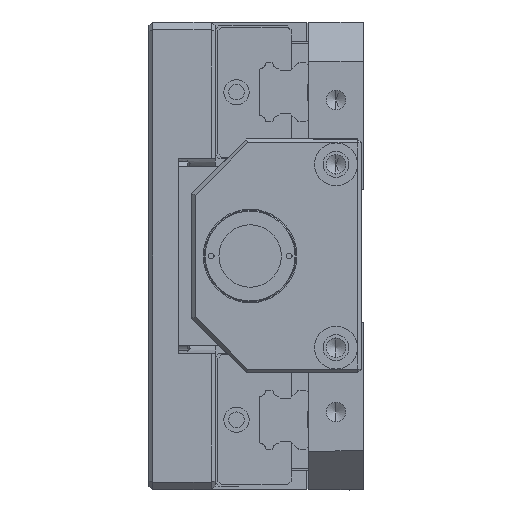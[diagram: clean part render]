
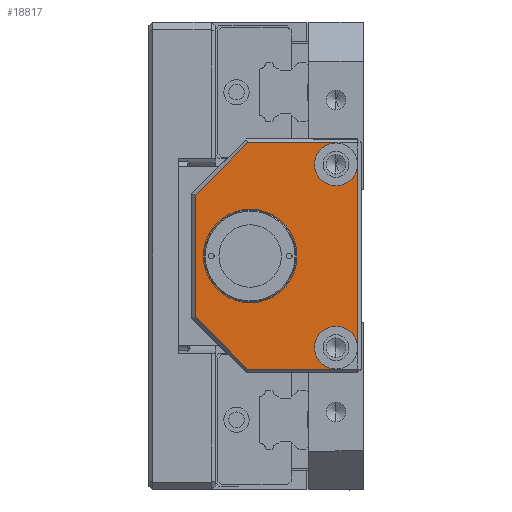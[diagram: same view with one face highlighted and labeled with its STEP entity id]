
A CAD part, left-side view. The second image highlights one B-rep face of the part: STEP entity #18817.
In plain terms, the highlighted planar face has unit normal (-1, 0, 0).
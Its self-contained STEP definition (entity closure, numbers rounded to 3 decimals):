
#823 = EDGE_CURVE ( 'NONE', #9899, #14290, #74788, .T. ) ;
#1445 = VERTEX_POINT ( 'NONE', #41222 ) ;
#1513 = CIRCLE ( 'NONE', #71193, 5.5 ) ;
#1786 = DIRECTION ( 'NONE',  ( 0., 1., 0. ) ) ;
#2687 = CARTESIAN_POINT ( 'NONE',  ( -190.447, 191.232, 291.473 ) ) ;
#3620 = DIRECTION ( 'NONE',  ( 0., 0., 1. ) ) ;
#3890 = CARTESIAN_POINT ( 'NONE',  ( -190.447, 205.023, 247.264 ) ) ;
#4223 = CARTESIAN_POINT ( 'NONE',  ( -190.447, 190.646, 262.473 ) ) ;
#6729 = LINE ( 'NONE', #107466, #62374 ) ;
#7124 = ORIENTED_EDGE ( 'NONE', *, *, #53594, .F. ) ;
#7870 = CARTESIAN_POINT ( 'NONE',  ( -190.447, 183.896, 291.473 ) ) ;
#8341 = CARTESIAN_POINT ( 'NONE',  ( -190.447, 168.646, 244.473 ) ) ;
#8556 = LINE ( 'NONE', #97823, #110539 ) ;
#8952 = EDGE_CURVE ( 'NONE', #44213, #62410, #97214, .T. ) ;
#9082 = DIRECTION ( 'NONE',  ( 0., 1., 0. ) ) ;
#9899 = VERTEX_POINT ( 'NONE', #106413 ) ;
#11189 = VERTEX_POINT ( 'NONE', #94963 ) ;
#11322 = ORIENTED_EDGE ( 'NONE', *, *, #101439, .F. ) ;
#13144 = DIRECTION ( 'NONE',  ( 0., 0., -1. ) ) ;
#13964 = DIRECTION ( 'NONE',  ( 1., 0., 0. ) ) ;
#14290 = VERTEX_POINT ( 'NONE', #118552 ) ;
#17005 = CIRCLE ( 'NONE', #73959, 5.5 ) ;
#17812 = ORIENTED_EDGE ( 'NONE', *, *, #823, .F. ) ;
#18817 = ADVANCED_FACE ( 'NONE', ( #105763, #23964 ), #121811, .F. ) ;
#18882 = EDGE_CURVE ( 'NONE', #63800, #49476, #65605, .T. ) ;
#19894 = CARTESIAN_POINT ( 'NONE',  ( -190.447, 168.646, 280.473 ) ) ;
#21570 = DIRECTION ( 'NONE',  ( 0., 0., 1. ) ) ;
#23478 = CARTESIAN_POINT ( 'NONE',  ( -190.447, 163.146, 262.473 ) ) ;
#23964 = FACE_OUTER_BOUND ( 'NONE', #72386, .T. ) ;
#24178 = AXIS2_PLACEMENT_3D ( 'NONE', #52362, #13964, #13144 ) ;
#24598 = DIRECTION ( 'NONE',  ( 0., 1., 0. ) ) ;
#24934 = ORIENTED_EDGE ( 'NONE', *, *, #98384, .F. ) ;
#25540 = AXIS2_PLACEMENT_3D ( 'NONE', #59926, #69827, #21570 ) ;
#27057 = VECTOR ( 'NONE', #122224, 1000. ) ;
#29135 = DIRECTION ( 'NONE',  ( -1., 0., 0. ) ) ;
#29877 = ORIENTED_EDGE ( 'NONE', *, *, #18882, .F. ) ;
#31581 = DIRECTION ( 'NONE',  ( 0., 0., 1. ) ) ;
#32449 = EDGE_CURVE ( 'NONE', #67236, #11189, #107977, .T. ) ;
#36400 = DIRECTION ( 'NONE',  ( 0., -1., 0. ) ) ;
#39371 = VECTOR ( 'NONE', #31581, 1000. ) ;
#39932 = EDGE_LOOP ( 'NONE', ( #77867, #106827 ) ) ;
#41222 = CARTESIAN_POINT ( 'NONE',  ( -190.447, 204.646, 278.059 ) ) ;
#44213 = VERTEX_POINT ( 'NONE', #68434 ) ;
#45506 = CARTESIAN_POINT ( 'NONE',  ( -190.447, 168.646, 233.473 ) ) ;
#46425 = EDGE_CURVE ( 'NONE', #75498, #61157, #17005, .T. ) ;
#49476 = VERTEX_POINT ( 'NONE', #67634 ) ;
#49514 = DIRECTION ( 'NONE',  ( 0., 0., 1. ) ) ;
#51384 = CARTESIAN_POINT ( 'NONE',  ( -190.447, 163.146, 285.973 ) ) ;
#51885 = CIRCLE ( 'NONE', #121185, 5.5 ) ;
#52362 = CARTESIAN_POINT ( 'NONE',  ( -190.447, 163.146, 291.473 ) ) ;
#52924 = AXIS2_PLACEMENT_3D ( 'NONE', #4223, #74077, #24598 ) ;
#53594 = EDGE_CURVE ( 'NONE', #14290, #1445, #91852, .T. ) ;
#55405 = VECTOR ( 'NONE', #36400, 1000. ) ;
#59926 = CARTESIAN_POINT ( 'NONE',  ( -190.447, 168.646, 285.973 ) ) ;
#60489 = DIRECTION ( 'NONE',  ( -1., 0., 0. ) ) ;
#61157 = VERTEX_POINT ( 'NONE', #45506 ) ;
#61346 = CARTESIAN_POINT ( 'NONE',  ( -190.447, 190.646, 262.473 ) ) ;
#62374 = VECTOR ( 'NONE', #9082, 1000. ) ;
#62410 = VERTEX_POINT ( 'NONE', #111590 ) ;
#63800 = VERTEX_POINT ( 'NONE', #51384 ) ;
#65605 = LINE ( 'NONE', #23478, #27057 ) ;
#66507 = AXIS2_PLACEMENT_3D ( 'NONE', #61346, #60489, #1786 ) ;
#67236 = VERTEX_POINT ( 'NONE', #2687 ) ;
#67634 = CARTESIAN_POINT ( 'NONE',  ( -190.447, 163.146, 238.973 ) ) ;
#68434 = CARTESIAN_POINT ( 'NONE',  ( -190.447, 178.896, 262.473 ) ) ;
#69827 = DIRECTION ( 'NONE',  ( -1., 0., 0. ) ) ;
#71145 = CIRCLE ( 'NONE', #52924, 11.75 ) ;
#71193 = AXIS2_PLACEMENT_3D ( 'NONE', #88647, #29135, #107251 ) ;
#71630 = VERTEX_POINT ( 'NONE', #19894 ) ;
#72207 = DIRECTION ( 'NONE',  ( -1., 0., 0. ) ) ;
#72328 = ORIENTED_EDGE ( 'NONE', *, *, #120305, .F. ) ;
#72386 = EDGE_LOOP ( 'NONE', ( #29877, #11322, #124216, #86072, #72328, #7124, #17812, #24934, #125846, #76800 ) ) ;
#73959 = AXIS2_PLACEMENT_3D ( 'NONE', #118101, #108220, #49514 ) ;
#74077 = DIRECTION ( 'NONE',  ( -1., 0., 0. ) ) ;
#74788 = LINE ( 'NONE', #3890, #115011 ) ;
#75498 = VERTEX_POINT ( 'NONE', #8341 ) ;
#76800 = ORIENTED_EDGE ( 'NONE', *, *, #78870, .F. ) ;
#77867 = ORIENTED_EDGE ( 'NONE', *, *, #81744, .F. ) ;
#78870 = EDGE_CURVE ( 'NONE', #49476, #75498, #51885, .T. ) ;
#81744 = EDGE_CURVE ( 'NONE', #62410, #44213, #71145, .T. ) ;
#86072 = ORIENTED_EDGE ( 'NONE', *, *, #32449, .F. ) ;
#88647 = CARTESIAN_POINT ( 'NONE',  ( -190.447, 168.646, 285.973 ) ) ;
#91852 = LINE ( 'NONE', #120870, #39371 ) ;
#94142 = EDGE_CURVE ( 'NONE', #11189, #71630, #120218, .T. ) ;
#94963 = CARTESIAN_POINT ( 'NONE',  ( -190.447, 168.646, 291.473 ) ) ;
#97214 = CIRCLE ( 'NONE', #66507, 11.75 ) ;
#97823 = CARTESIAN_POINT ( 'NONE',  ( -190.447, 190.855, 291.85 ) ) ;
#98384 = EDGE_CURVE ( 'NONE', #61157, #9899, #6729, .T. ) ;
#101439 = EDGE_CURVE ( 'NONE', #71630, #63800, #1513, .T. ) ;
#105763 = FACE_BOUND ( 'NONE', #39932, .T. ) ;
#106413 = CARTESIAN_POINT ( 'NONE',  ( -190.447, 191.232, 233.473 ) ) ;
#106827 = ORIENTED_EDGE ( 'NONE', *, *, #8952, .F. ) ;
#107251 = DIRECTION ( 'NONE',  ( 0., 0., 1. ) ) ;
#107466 = CARTESIAN_POINT ( 'NONE',  ( -190.447, 183.896, 233.473 ) ) ;
#107977 = LINE ( 'NONE', #7870, #55405 ) ;
#108220 = DIRECTION ( 'NONE',  ( -1., 0., 0. ) ) ;
#110539 = VECTOR ( 'NONE', #116397, 1000. ) ;
#111590 = CARTESIAN_POINT ( 'NONE',  ( -190.447, 202.396, 262.473 ) ) ;
#111600 = CARTESIAN_POINT ( 'NONE',  ( -190.447, 168.646, 238.973 ) ) ;
#113131 = DIRECTION ( 'NONE',  ( 0., 0.707, 0.707 ) ) ;
#115011 = VECTOR ( 'NONE', #113131, 1000. ) ;
#116397 = DIRECTION ( 'NONE',  ( 0., -0.707, 0.707 ) ) ;
#118101 = CARTESIAN_POINT ( 'NONE',  ( -190.447, 168.646, 238.973 ) ) ;
#118552 = CARTESIAN_POINT ( 'NONE',  ( -190.447, 204.646, 246.887 ) ) ;
#120218 = CIRCLE ( 'NONE', #25540, 5.5 ) ;
#120305 = EDGE_CURVE ( 'NONE', #1445, #67236, #8556, .T. ) ;
#120870 = CARTESIAN_POINT ( 'NONE',  ( -190.447, 204.646, 262.473 ) ) ;
#121185 = AXIS2_PLACEMENT_3D ( 'NONE', #111600, #72207, #3620 ) ;
#121811 = PLANE ( 'NONE',  #24178 ) ;
#122224 = DIRECTION ( 'NONE',  ( 0., 0., -1. ) ) ;
#124216 = ORIENTED_EDGE ( 'NONE', *, *, #94142, .F. ) ;
#125846 = ORIENTED_EDGE ( 'NONE', *, *, #46425, .F. ) ;
